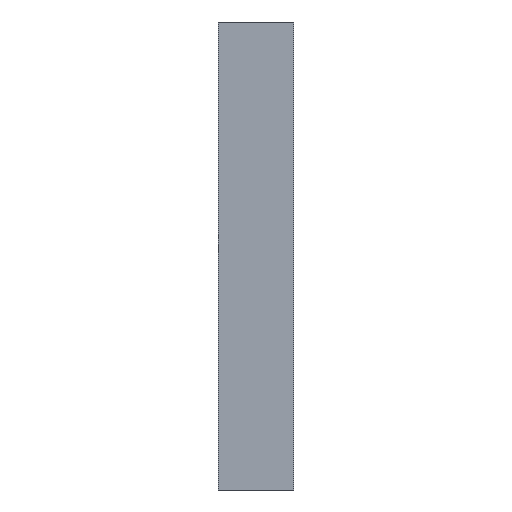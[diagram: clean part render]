
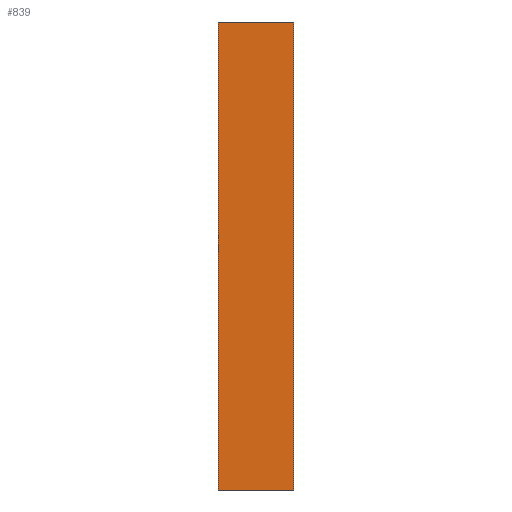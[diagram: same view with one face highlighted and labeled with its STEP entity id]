
A CAD part, left-side view. The second image highlights one B-rep face of the part: STEP entity #839.
In plain terms, the highlighted planar face has unit normal (-1, 0, 0).
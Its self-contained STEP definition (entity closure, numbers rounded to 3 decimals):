
#18 = EDGE_CURVE ( 'NONE', #909, #846, #33, .T. ) ;
#33 = LINE ( 'NONE', #622, #529 ) ;
#42 = DIRECTION ( 'NONE',  ( 1., 0., 0. ) ) ;
#56 = LINE ( 'NONE', #376, #492 ) ;
#84 = LINE ( 'NONE', #792, #610 ) ;
#262 = DIRECTION ( 'NONE',  ( 0., 0., -1. ) ) ;
#317 = ORIENTED_EDGE ( 'NONE', *, *, #323, .T. ) ;
#323 = EDGE_CURVE ( 'NONE', #450, #846, #84, .T. ) ;
#340 = PLANE ( 'NONE',  #868 ) ;
#357 = DIRECTION ( 'NONE',  ( 0., 0., 1. ) ) ;
#376 = CARTESIAN_POINT ( 'NONE',  ( -298., 96., -298. ) ) ;
#400 = ORIENTED_EDGE ( 'NONE', *, *, #704, .T. ) ;
#403 = CARTESIAN_POINT ( 'NONE',  ( -298., 96., 298. ) ) ;
#445 = VECTOR ( 'NONE', #357, 1000. ) ;
#450 = VERTEX_POINT ( 'NONE', #805 ) ;
#457 = VERTEX_POINT ( 'NONE', #815 ) ;
#492 = VECTOR ( 'NONE', #601, 1000. ) ;
#529 = VECTOR ( 'NONE', #548, 1000. ) ;
#538 = EDGE_CURVE ( 'NONE', #457, #909, #716, .T. ) ;
#548 = DIRECTION ( 'NONE',  ( 0., -1., 0. ) ) ;
#549 = CARTESIAN_POINT ( 'NONE',  ( -298., 96., 298. ) ) ;
#601 = DIRECTION ( 'NONE',  ( 0., -1., 0. ) ) ;
#606 = ORIENTED_EDGE ( 'NONE', *, *, #18, .F. ) ;
#610 = VECTOR ( 'NONE', #733, 1000. ) ;
#618 = FACE_OUTER_BOUND ( 'NONE', #745, .T. ) ;
#622 = CARTESIAN_POINT ( 'NONE',  ( -298., 96., 298. ) ) ;
#704 = EDGE_CURVE ( 'NONE', #457, #450, #56, .T. ) ;
#716 = LINE ( 'NONE', #796, #445 ) ;
#733 = DIRECTION ( 'NONE',  ( 0., 0., 1. ) ) ;
#745 = EDGE_LOOP ( 'NONE', ( #317, #606, #811, #400 ) ) ;
#792 = CARTESIAN_POINT ( 'NONE',  ( -298., 0., 298. ) ) ;
#796 = CARTESIAN_POINT ( 'NONE',  ( -298., 96., 298. ) ) ;
#805 = CARTESIAN_POINT ( 'NONE',  ( -298., 0., -298. ) ) ;
#811 = ORIENTED_EDGE ( 'NONE', *, *, #538, .F. ) ;
#815 = CARTESIAN_POINT ( 'NONE',  ( -298., 96., -298. ) ) ;
#839 = ADVANCED_FACE ( 'NONE', ( #618 ), #340, .F. ) ;
#846 = VERTEX_POINT ( 'NONE', #849 ) ;
#849 = CARTESIAN_POINT ( 'NONE',  ( -298., 0., 298. ) ) ;
#868 = AXIS2_PLACEMENT_3D ( 'NONE', #403, #42, #262 ) ;
#909 = VERTEX_POINT ( 'NONE', #549 ) ;
